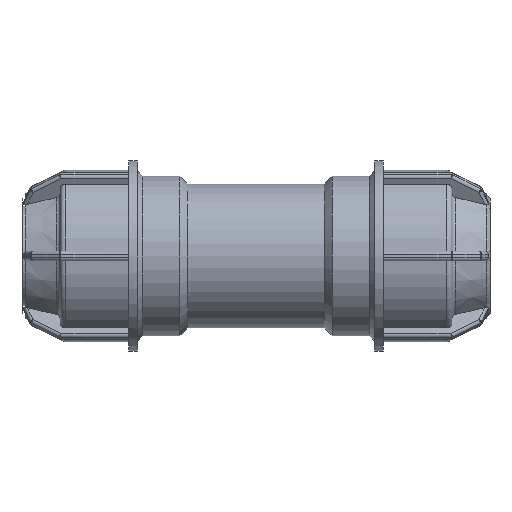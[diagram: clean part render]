
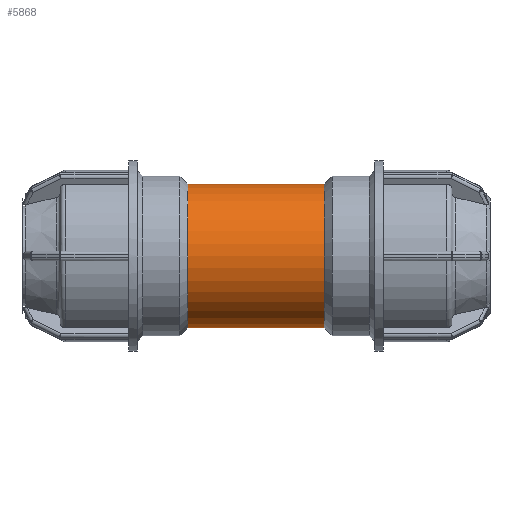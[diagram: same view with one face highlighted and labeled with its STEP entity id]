
A CAD part, front view. The second image highlights one B-rep face of the part: STEP entity #5868.
In plain terms, the highlighted cylindrical face has radius 23.04 mm (diameter 46.08 mm), a full revolution.
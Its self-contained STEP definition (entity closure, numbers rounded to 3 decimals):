
#1047=B_SPLINE_CURVE_WITH_KNOTS('',3,(#8914,#8915,#8916,#8917,#8918,#8919,
#8920,#8921,#8922,#8923,#8924,#8925,#8926,#8927,#8928,#8929,#8930,#8931,
#8932,#8933,#8934,#8935,#8936,#8937,#8938,#8939,#8940,#8941,#8942,#8943,
#8944,#8945,#8946,#8947),.UNSPECIFIED.,.T.,.F.,(4,2,2,2,2,2,2,2,2,2,2,2,
2,2,2,2,4),(0.,0.418,0.837,1.254,1.672,
2.089,2.507,2.925,3.344,3.762,
4.18,4.598,5.015,5.433,5.85,
6.269,6.687),.UNSPECIFIED.);
#1229=FACE_BOUND('',#1680,.T.);
#1230=FACE_BOUND('',#1681,.T.);
#1269=FACE_OUTER_BOUND('',#1679,.T.);
#1679=EDGE_LOOP('',(#3924));
#1680=EDGE_LOOP('',(#3925));
#1681=EDGE_LOOP('',(#3926));
#2129=CIRCLE('',#6281,23.04);
#2130=CIRCLE('',#6282,23.04);
#2474=VERTEX_POINT('',#8909);
#2475=VERTEX_POINT('',#8911);
#2476=VERTEX_POINT('',#8913);
#3013=EDGE_CURVE('',#2474,#2474,#2129,.T.);
#3014=EDGE_CURVE('',#2475,#2475,#2130,.T.);
#3015=EDGE_CURVE('',#2476,#2476,#1047,.T.);
#3924=ORIENTED_EDGE('',*,*,#3013,.F.);
#3925=ORIENTED_EDGE('',*,*,#3014,.T.);
#3926=ORIENTED_EDGE('',*,*,#3015,.F.);
#5746=CYLINDRICAL_SURFACE('',#6280,23.04);
#5868=ADVANCED_FACE('',(#1269,#1229,#1230),#5746,.T.);
#6280=AXIS2_PLACEMENT_3D('',#8908,#7037,#7038);
#6281=AXIS2_PLACEMENT_3D('',#8910,#7039,#7040);
#6282=AXIS2_PLACEMENT_3D('',#8912,#7041,#7042);
#7037=DIRECTION('center_axis',(1.,0.,0.));
#7038=DIRECTION('ref_axis',(0.,1.,0.));
#7039=DIRECTION('center_axis',(1.,0.,0.));
#7040=DIRECTION('ref_axis',(0.,0.,-1.));
#7041=DIRECTION('center_axis',(1.,0.,0.));
#7042=DIRECTION('ref_axis',(0.,0.,-1.));
#8908=CARTESIAN_POINT('Origin',(10.9,0.,0.));
#8909=CARTESIAN_POINT('',(21.8,23.04,0.));
#8910=CARTESIAN_POINT('Origin',(21.8,0.,0.));
#8911=CARTESIAN_POINT('',(-21.8,23.04,0.));
#8912=CARTESIAN_POINT('Origin',(-21.8,0.,0.));
#8913=CARTESIAN_POINT('',(0.,20.299,10.899));
#8914=CARTESIAN_POINT('Ctrl Pts',(0.,20.299,
10.899));
#8915=CARTESIAN_POINT('Ctrl Pts',(1.395,20.299,10.899));
#8916=CARTESIAN_POINT('Ctrl Pts',(2.863,20.458,10.616));
#8917=CARTESIAN_POINT('Ctrl Pts',(5.54,21.001,9.498));
#8918=CARTESIAN_POINT('Ctrl Pts',(6.75,21.373,8.663));
#8919=CARTESIAN_POINT('Ctrl Pts',(8.661,22.052,6.752));
#8920=CARTESIAN_POINT('Ctrl Pts',(9.497,22.405,5.541));
#8921=CARTESIAN_POINT('Ctrl Pts',(10.617,22.902,2.862));
#8922=CARTESIAN_POINT('Ctrl Pts',(10.899,23.04,1.392));
#8923=CARTESIAN_POINT('Ctrl Pts',(10.899,23.04,-1.392));
#8924=CARTESIAN_POINT('Ctrl Pts',(10.617,22.902,-2.862));
#8925=CARTESIAN_POINT('Ctrl Pts',(9.497,22.405,-5.541));
#8926=CARTESIAN_POINT('Ctrl Pts',(8.661,22.052,-6.752));
#8927=CARTESIAN_POINT('Ctrl Pts',(6.75,21.373,-8.663));
#8928=CARTESIAN_POINT('Ctrl Pts',(5.54,21.001,-9.498));
#8929=CARTESIAN_POINT('Ctrl Pts',(2.863,20.458,-10.616));
#8930=CARTESIAN_POINT('Ctrl Pts',(1.395,20.299,-10.899));
#8931=CARTESIAN_POINT('Ctrl Pts',(-1.395,20.299,-10.899));
#8932=CARTESIAN_POINT('Ctrl Pts',(-2.863,20.458,-10.616));
#8933=CARTESIAN_POINT('Ctrl Pts',(-5.54,21.001,-9.498));
#8934=CARTESIAN_POINT('Ctrl Pts',(-6.75,21.373,-8.663));
#8935=CARTESIAN_POINT('Ctrl Pts',(-8.661,22.052,-6.752));
#8936=CARTESIAN_POINT('Ctrl Pts',(-9.497,22.405,-5.541));
#8937=CARTESIAN_POINT('Ctrl Pts',(-10.617,22.902,-2.862));
#8938=CARTESIAN_POINT('Ctrl Pts',(-10.899,23.04,-1.392));
#8939=CARTESIAN_POINT('Ctrl Pts',(-10.899,23.04,1.392));
#8940=CARTESIAN_POINT('Ctrl Pts',(-10.617,22.902,2.862));
#8941=CARTESIAN_POINT('Ctrl Pts',(-9.497,22.405,5.541));
#8942=CARTESIAN_POINT('Ctrl Pts',(-8.661,22.052,6.752));
#8943=CARTESIAN_POINT('Ctrl Pts',(-6.75,21.373,8.663));
#8944=CARTESIAN_POINT('Ctrl Pts',(-5.54,21.001,9.498));
#8945=CARTESIAN_POINT('Ctrl Pts',(-2.863,20.458,10.616));
#8946=CARTESIAN_POINT('Ctrl Pts',(-1.395,20.299,10.899));
#8947=CARTESIAN_POINT('Ctrl Pts',(0.,20.299,
10.899));
